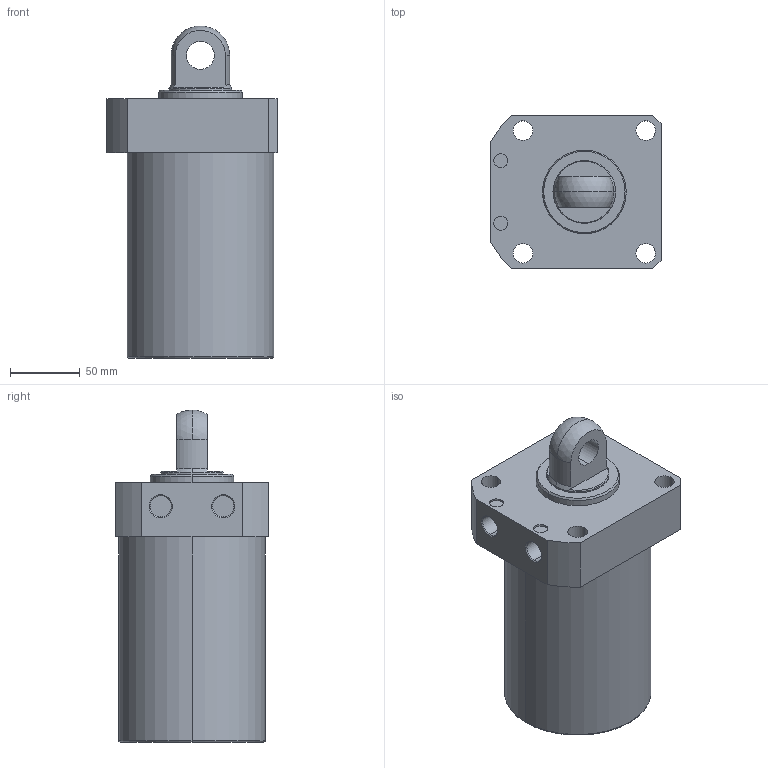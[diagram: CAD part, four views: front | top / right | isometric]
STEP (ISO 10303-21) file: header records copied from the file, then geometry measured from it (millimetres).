
FILE_DESCRIPTION (( 'STEP AP203' ), '1' );
FILE_NAME ('CLLR-105CP-100.STEP', '2019-12-18T08:05:07', ( '' ), ( '' ), 'SwSTEP 2.0', 'SolidWorks 2015', '' );
FILE_SCHEMA (( 'CONFIG_CONTROL_DESIGN' ));
Length unit declared in the file: millimetre
Products named in the file (1): CLLR-105CP-100
Bounding box: 122 x 110 x 238 mm (x, y, z)
Volume: 1798978.4 mm3; surface area: 106017.3 mm2
Topology: 1 solids, 1 shells, 59 faces, 139 edges, 89 vertices
Faces by surface type: cylinder 29, plane 18, cone 8, torus 2, sphere 2
Entity records: 1822 total; most frequent: DIRECTION 331, CARTESIAN_POINT 300, ORIENTED_EDGE 278, EDGE_CURVE 139, AXIS2_PLACEMENT_3D 136, VERTEX_POINT 89, CIRCLE 76, EDGE_LOOP 76
